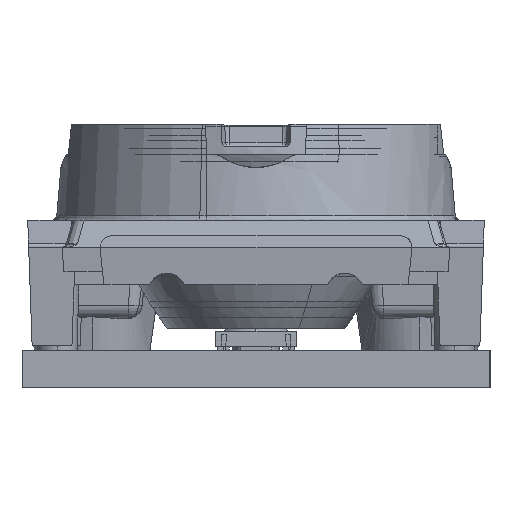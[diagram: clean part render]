
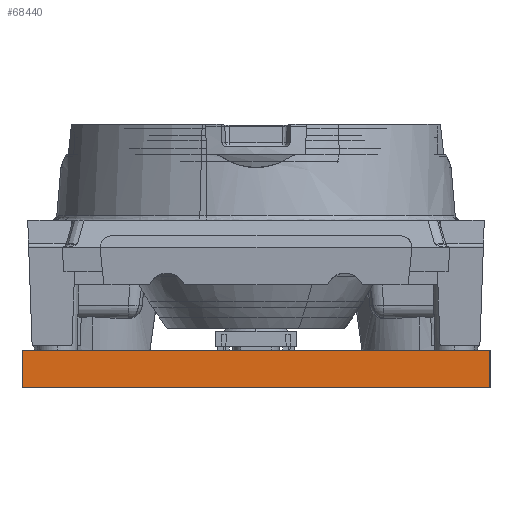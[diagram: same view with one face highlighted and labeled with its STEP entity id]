
A CAD part, left-side view. The second image highlights one B-rep face of the part: STEP entity #68440.
In plain terms, the highlighted planar face has unit normal (-1, 0, 0).
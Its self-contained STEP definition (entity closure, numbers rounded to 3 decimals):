
#68401=CARTESIAN_POINT('Axis2P3D Location',(-11.717,-10.,-0.06)) ;
#68406=CARTESIAN_POINT('Line Origine',(-11.717,-10.,-0.86)) ;
#68410=CARTESIAN_POINT('Vertex',(-11.717,-10.,-0.06)) ;
#68412=CARTESIAN_POINT('Vertex',(-11.717,-10.,-1.66)) ;
#68415=CARTESIAN_POINT('Line Origine',(-11.717,0.,-0.06)) ;
#68419=CARTESIAN_POINT('Vertex',(-11.717,10.,-0.06)) ;
#68422=CARTESIAN_POINT('Line Origine',(-11.717,10.,-0.86)) ;
#68426=CARTESIAN_POINT('Vertex',(-11.717,10.,-1.66)) ;
#68429=CARTESIAN_POINT('Line Origine',(-11.717,0.,-1.66)) ;
#68402=DIRECTION('Axis2P3D Direction',(-1.,0.,0.)) ;
#68403=DIRECTION('Axis2P3D XDirection',(0.,1.,0.)) ;
#68407=DIRECTION('Vector Direction',(0.,0.,-1.)) ;
#68416=DIRECTION('Vector Direction',(0.,1.,0.)) ;
#68423=DIRECTION('Vector Direction',(0.,0.,-1.)) ;
#68430=DIRECTION('Vector Direction',(0.,1.,0.)) ;
#68404=AXIS2_PLACEMENT_3D('Plane Axis2P3D',#68401,#68402,#68403) ;
#68435=ORIENTED_EDGE('',*,*,#68414,.F.) ;
#68436=ORIENTED_EDGE('',*,*,#68421,.F.) ;
#68437=ORIENTED_EDGE('',*,*,#68428,.T.) ;
#68438=ORIENTED_EDGE('',*,*,#68433,.T.) ;
#68408=VECTOR('Line Direction',#68407,1.) ;
#68417=VECTOR('Line Direction',#68416,1.) ;
#68424=VECTOR('Line Direction',#68423,1.) ;
#68431=VECTOR('Line Direction',#68430,1.) ;
#68440=ADVANCED_FACE('Reference PCB',(#68439),#68405,.T.) ;
#68414=EDGE_CURVE('',#68411,#68413,#68409,.T.) ;
#68421=EDGE_CURVE('',#68420,#68411,#68418,.F.) ;
#68428=EDGE_CURVE('',#68420,#68427,#68425,.T.) ;
#68433=EDGE_CURVE('',#68427,#68413,#68432,.F.) ;
#68434=EDGE_LOOP('',(#68435,#68436,#68437,#68438)) ;
#68439=FACE_OUTER_BOUND('',#68434,.T.) ;
#68409=LINE('Line',#68406,#68408) ;
#68418=LINE('Line',#68415,#68417) ;
#68425=LINE('Line',#68422,#68424) ;
#68432=LINE('Line',#68429,#68431) ;
#68405=PLANE('',#68404) ;
#68411=VERTEX_POINT('',#68410) ;
#68413=VERTEX_POINT('',#68412) ;
#68420=VERTEX_POINT('',#68419) ;
#68427=VERTEX_POINT('',#68426) ;
